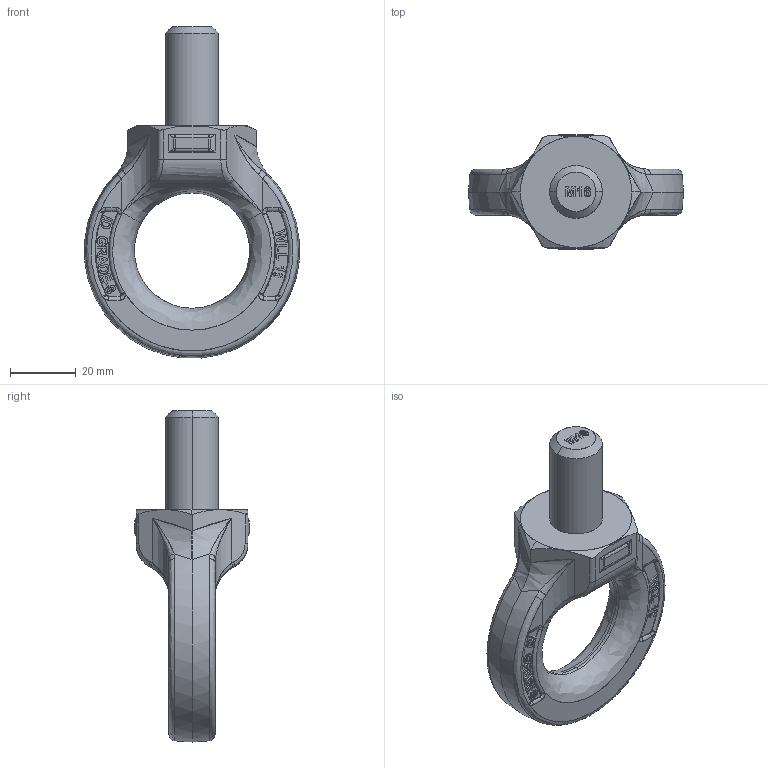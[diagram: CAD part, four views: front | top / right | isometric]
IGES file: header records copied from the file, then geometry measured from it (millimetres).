
Start section: SolidWorks IGES FILE using analytic representation for surfaces
Global section: file name: Z:\CNC PROGRAMS\tooling\Townley products\PRODUCTION\HTEB\HTEB16\HTEB16.IGS; native system: SolidWorks 2004 by SolidWorks Corporation; preprocessor: Version 5.3; author: Administrator; date: 131211.142102; units: millimetre
Bounding box: 65.31 x 34.8 x 100.83 mm (x, y, z)
Surface area: 11803.7 mm2 (no closed solid volume)
Topology: 0 solids, 0 shells, 606 faces, 5603 edges, 5591 vertices
Faces by surface type: bspline 536, revolution 70
